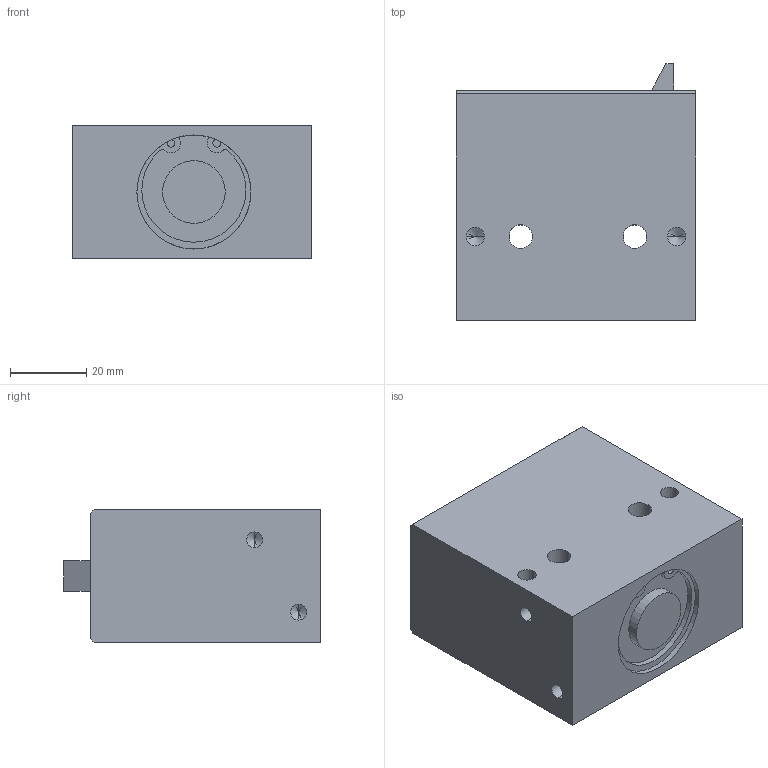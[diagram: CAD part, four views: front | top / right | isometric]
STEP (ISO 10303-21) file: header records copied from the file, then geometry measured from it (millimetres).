
FILE_DESCRIPTION (( 'STEP AP203' ), '1' );
FILE_NAME ('DBS-18-07-EW.STEP', '2017-10-16T09:48:54', ( '' ), ( '' ), 'SwSTEP 2.0', 'SolidWorks 2017', '' );
FILE_SCHEMA (( 'CONFIG_CONTROL_DESIGN' ));
Length unit declared in the file: millimetre
Products named in the file (1): DBS-18-07-EW
Bounding box: 63 x 67.5 x 35 mm (x, y, z)
Volume: 115575.2 mm3; surface area: 30687.2 mm2
Topology: 3 solids, 3 shells, 145 faces, 362 edges, 224 vertices
Faces by surface type: plane 63, cylinder 60, cone 22
Entity records: 4287 total; most frequent: DIRECTION 772, CARTESIAN_POINT 712, ORIENTED_EDGE 684, EDGE_CURVE 342, AXIS2_PLACEMENT_3D 284, VERTEX_POINT 224, LINE 204, VECTOR 204
